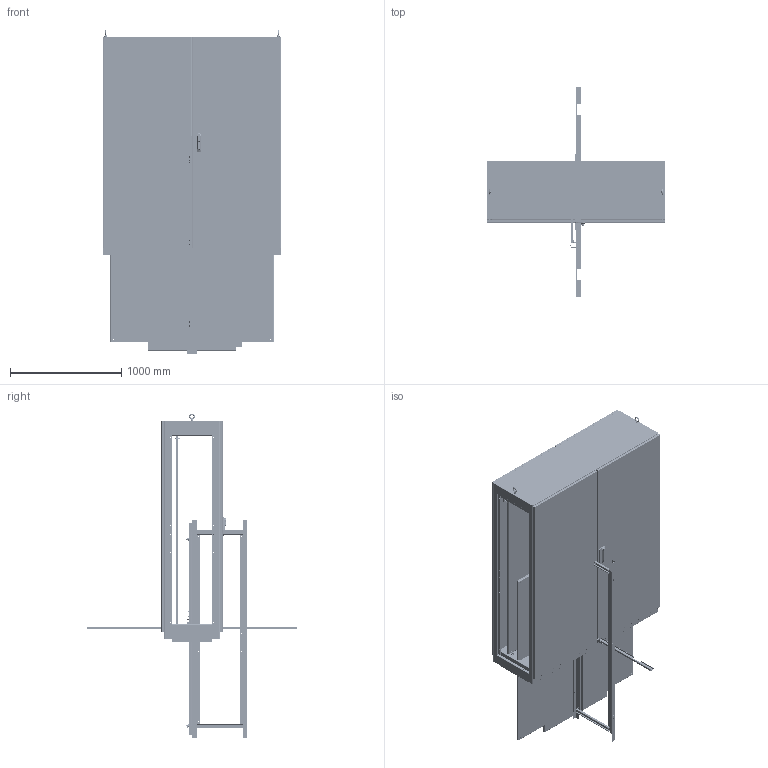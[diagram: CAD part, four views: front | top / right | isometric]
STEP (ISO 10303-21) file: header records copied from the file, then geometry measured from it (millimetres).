
FILE_DESCRIPTION( ( 'Unknown' ), '1' );
FILE_NAME( 'Q:/IME/WEB DRAWINGS/IMET18165.stp', 'Unknown', ( 'Unknown' ), ( 'Unknown' ), 'XStep 1.0', 'Unknown', ' ' );
FILE_SCHEMA( ( 'CONFIG_CONTROL_DESIGN' ) );
Length unit declared in the file: millimetre
Products named in the file (140): Assem1; Assem2; Assem3; Assem4; Assem5; Assem6; Assem7; Assem8; Assem9; Assem10; Assem11; Assem12; Assem13; Assem14; Assem15; Assem16; Assem17; Assem18; Assem19; Assem20; Assem21; Assem22; Assem23; Assem24; 1; 2; 3; 4; 5; 6; 7; 8; 9; 10; 11; 12; 13; 14; 15; 16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
Bounding box: 1600.2 x 1892.5 x 2917.15 mm (x, y, z)
Volume: 87117412.6 mm3; surface area: 88953126.2 mm2
Topology: 575 solids, 581 shells, 13360 faces, 33853 edges, 22127 vertices
Faces by surface type: plane 8425, cylinder 3937, torus 405, cone 354, bspline 239
Full cylindrical faces by diameter (mm): 2.464 x16, 3.175 x3, 3.454 x16, 3.607 x12, 4.039 x8, 4.166 x72, 4.216 x16, 4.318 x16, 4.826 x16, 4.851 x8, 4.928 x16, 5.08 x28, 5.105 x18, 5.156 x12, 5.537 x140, 5.842 x8, 5.893 x14, 5.994 x26, 6 x46, 6.35 x106, 6.411 x31, 7.137 x28, 7.366 x12, 7.442 x18, 7.62 x18, 7.938 x94, 8.001 x32, 8.026 x8, 9.525 x22, 9.804 x30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
Entity records: 99319 total; most frequent: CARTESIAN_POINT 23151, DIRECTION 14595, ORIENTED_EDGE 13762, EDGE_CURVE 6881, AXIS2_PLACEMENT_3D 4995, VERTEX_POINT 4685, LINE 4605, VECTOR 4605
